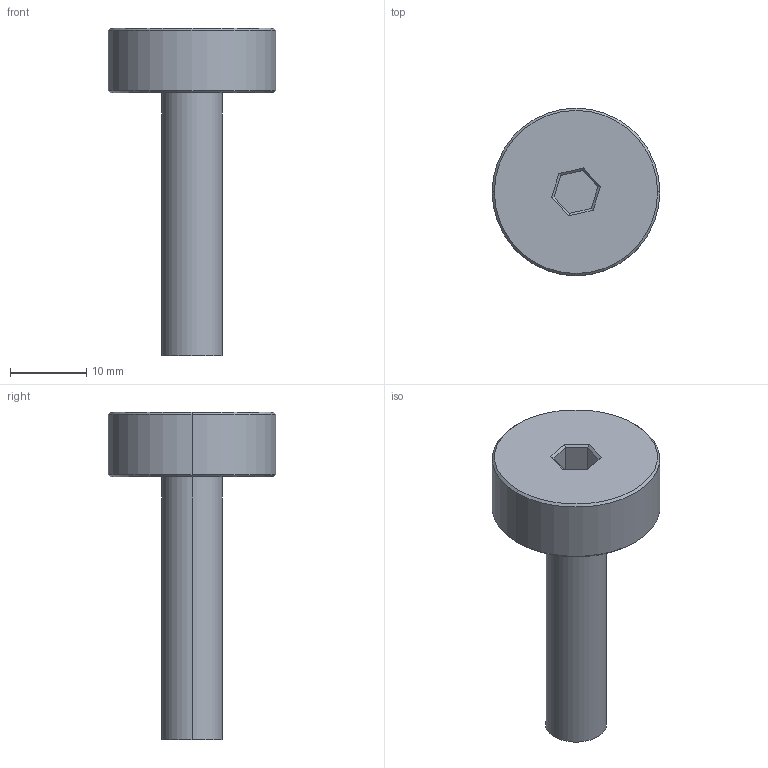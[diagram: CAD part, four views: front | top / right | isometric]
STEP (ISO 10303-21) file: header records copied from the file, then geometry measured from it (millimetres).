
FILE_DESCRIPTION (( 'STEP AP214' ), '1' );
FILE_NAME ('唅聽.STEP', '2026-09-23T01:47:30', ( '' ), ( '' ), 'SwSTEP 2.0', 'SolidWorks 2024', '' );
FILE_SCHEMA (( 'AUTOMOTIVE_DESIGN' ));
Length unit declared in the file: millimetre
Products named in the file (1): 旋钮
Bounding box: 22 x 22 x 43 mm (x, y, z)
Volume: 4755.9 mm3; surface area: 2314.1 mm2
Topology: 1 solids, 1 shells, 25 faces, 54 edges, 33 vertices
Faces by surface type: plane 16, cone 4, cylinder 4, sphere 1
Entity records: 679 total; most frequent: DIRECTION 118, CARTESIAN_POINT 110, ORIENTED_EDGE 104, EDGE_CURVE 52, AXIS2_PLACEMENT_3D 40, VECTOR 38, LINE 38, VERTEX_POINT 32
